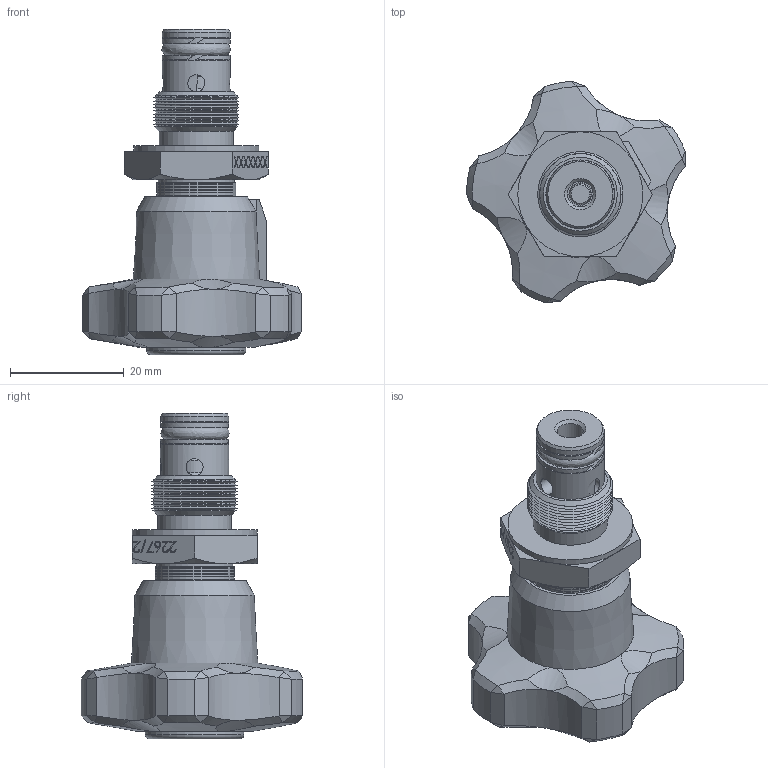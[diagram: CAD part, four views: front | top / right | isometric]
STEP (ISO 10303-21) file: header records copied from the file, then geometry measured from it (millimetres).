
FILE_DESCRIPTION (( 'STEP AP214' ), '1' );
FILE_NAME ('2267-2-18 VOLANTINO ABS.STEP', '2025-10-30T14:40:58', ( '' ), ( '' ), 'SwSTEP 2.0', 'SolidWorks 2025', '' );
FILE_SCHEMA (( 'AUTOMOTIVE_DESIGN' ));
Length unit declared in the file: millimetre
Products named in the file (13): DISCO FASCETTA 1237-2.004.00-18; ANELLO ANTI ESTRUSIONE 267-2.022.00-18; OR 2018; BK  2018; ANELLO DI FERMO 1251-2.003.00-14; VITE A TESTA BOMBATA 2257-2.006.00-14; VOLANTINO DI MANOVRA 257-1.005.00-18; GRANO DI BLOCCAGGIO M4x5_Tipo18; CORPO CARTUCCIA FILETTATA 2267-2.101.00-18; SPILLO DI REGOLAZIONE 2267-2.002.00-18; OR 108 VITON; 2267-2-18 VOLANTINO ABS; CAPPUCCIO VOLANTINO 257-2.007.00-16_Tipo18
Assembly tree (13 placements, depth 2):
  2267-2-18 VOLANTINO ABS
    CORPO CARTUCCIA FILETTATA 2267-2.101.00-18
    OR 108 VITON
    SPILLO DI REGOLAZIONE 2267-2.002.00-18
    BK  2018
    OR 2018
    GRANO DI BLOCCAGGIO M4x5_Tipo18
    ANELLO DI FERMO 1251-2.003.00-14
    ANELLO ANTI ESTRUSIONE 267-2.022.00-18  x2
    DISCO FASCETTA 1237-2.004.00-18
    VITE A TESTA BOMBATA 2257-2.006.00-14
    CAPPUCCIO VOLANTINO 257-2.007.00-16_Tipo18
    VOLANTINO DI MANOVRA 257-1.005.00-18
Bounding box: 38.49 x 38.98 x 57.3 mm (x, y, z)
Volume: 19984.2 mm3; surface area: 13443.8 mm2
Topology: 13 solids, 13 shells, 910 faces, 2172 edges, 1373 vertices
Faces by surface type: plane 522, cone 185, cylinder 118, bspline 76, torus 8, sphere 1
Full cylindrical faces by diameter (mm): 2 x1, 2.5 x1, 3 x5, 3.2 x1, 4 x1, 4.3 x1, 4.5 x1, 5 x1, 5.5 x1, 5.8 x1, 6.5 x1, 7 x1, 7.5 x1, 8 x3, 8.5 x2, 9 x1, 9.1 x1, 11.8 x1, 12 x2, 12.1 x1, 12.5 x1, 13 x1, 13.3 x1, 13.4 x1, 13.88 x12, 13.9 x13, 14.9 x1, 15 x1, 17.4 x1, 22 x1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
Entity records: 32371 total; most frequent: CARTESIAN_POINT 12652, ORIENTED_EDGE 3802, DIRECTION 3707, EDGE_CURVE 1901, VERTEX_POINT 1322, AXIS2_PLACEMENT_3D 1266, EDGE_LOOP 1221, LINE 1175
